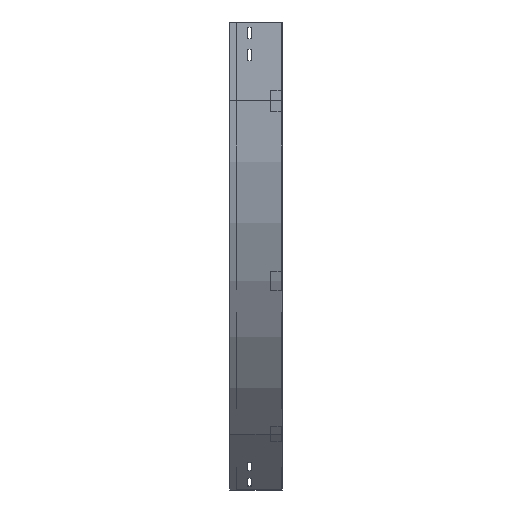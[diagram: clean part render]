
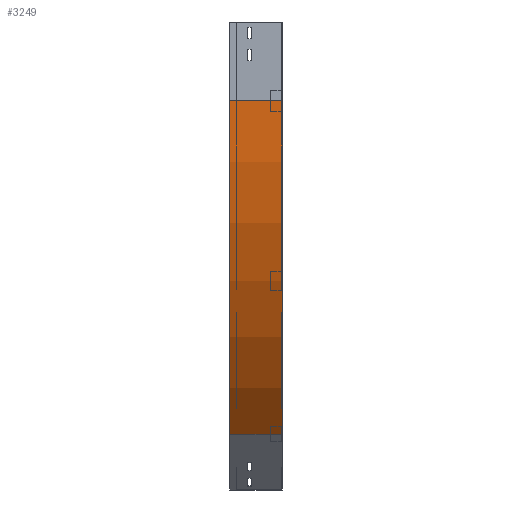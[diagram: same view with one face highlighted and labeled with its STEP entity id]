
A CAD part, left-side view. The second image highlights one B-rep face of the part: STEP entity #3249.
In plain terms, the highlighted cylindrical face has radius 900 mm (diameter 1800 mm), a partial arc.
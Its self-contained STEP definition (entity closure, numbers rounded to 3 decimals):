
#97 = CARTESIAN_POINT ( 'NONE',  ( 900., 0., -150. ) ) ;
#341 = LINE ( 'NONE', #2414, #1939 ) ;
#370 = ORIENTED_EDGE ( 'NONE', *, *, #2659, .T. ) ;
#576 = CIRCLE ( 'NONE', #3188, 900. ) ;
#584 = CARTESIAN_POINT ( 'NONE',  ( 263.604, 100., -786.396 ) ) ;
#593 = DIRECTION ( 'NONE',  ( 0., -1., 0. ) ) ;
#649 = VECTOR ( 'NONE', #593, 1000. ) ;
#651 = CYLINDRICAL_SURFACE ( 'NONE', #1090, 900. ) ;
#862 = VERTEX_POINT ( 'NONE', #1236 ) ;
#877 = CARTESIAN_POINT ( 'NONE',  ( 263.604, 0., -786.396 ) ) ;
#880 = DIRECTION ( 'NONE',  ( 0., -1., 0. ) ) ;
#938 = FACE_OUTER_BOUND ( 'NONE', #1795, .T. ) ;
#1077 = ORIENTED_EDGE ( 'NONE', *, *, #1158, .T. ) ;
#1090 = AXIS2_PLACEMENT_3D ( 'NONE', #1821, #1640, #2243 ) ;
#1158 = EDGE_CURVE ( 'NONE', #862, #2075, #576, .T. ) ;
#1217 = ORIENTED_EDGE ( 'NONE', *, *, #3210, .F. ) ;
#1236 = CARTESIAN_POINT ( 'NONE',  ( 0., 100., -150. ) ) ;
#1275 = DIRECTION ( 'NONE',  ( -1., 0., 0. ) ) ;
#1444 = CARTESIAN_POINT ( 'NONE',  ( 263.604, 0., -786.396 ) ) ;
#1504 = DIRECTION ( 'NONE',  ( 0., -1., 0. ) ) ;
#1640 = DIRECTION ( 'NONE',  ( 0., -1., 0. ) ) ;
#1734 = VERTEX_POINT ( 'NONE', #2675 ) ;
#1754 = VERTEX_POINT ( 'NONE', #1444 ) ;
#1795 = EDGE_LOOP ( 'NONE', ( #2741, #1217, #1077, #370 ) ) ;
#1821 = CARTESIAN_POINT ( 'NONE',  ( 900., 0., -150. ) ) ;
#1939 = VECTOR ( 'NONE', #1504, 1000. ) ;
#2075 = VERTEX_POINT ( 'NONE', #584 ) ;
#2243 = DIRECTION ( 'NONE',  ( 0., 0., -1. ) ) ;
#2319 = CARTESIAN_POINT ( 'NONE',  ( 900., 100., -150. ) ) ;
#2414 = CARTESIAN_POINT ( 'NONE',  ( 0., 0., -150. ) ) ;
#2659 = EDGE_CURVE ( 'NONE', #2075, #1754, #3547, .T. ) ;
#2675 = CARTESIAN_POINT ( 'NONE',  ( 0., 0., -150. ) ) ;
#2741 = ORIENTED_EDGE ( 'NONE', *, *, #3173, .F. ) ;
#3011 = CIRCLE ( 'NONE', #3138, 900. ) ;
#3138 = AXIS2_PLACEMENT_3D ( 'NONE', #97, #3591, #1275 ) ;
#3173 = EDGE_CURVE ( 'NONE', #1734, #1754, #3011, .T. ) ;
#3188 = AXIS2_PLACEMENT_3D ( 'NONE', #2319, #880, #3588 ) ;
#3210 = EDGE_CURVE ( 'NONE', #862, #1734, #341, .T. ) ;
#3249 = ADVANCED_FACE ( 'NONE', ( #938 ), #651, .T. ) ;
#3547 = LINE ( 'NONE', #877, #649 ) ;
#3588 = DIRECTION ( 'NONE',  ( -1., 0., 0. ) ) ;
#3591 = DIRECTION ( 'NONE',  ( 0., -1., 0. ) ) ;
